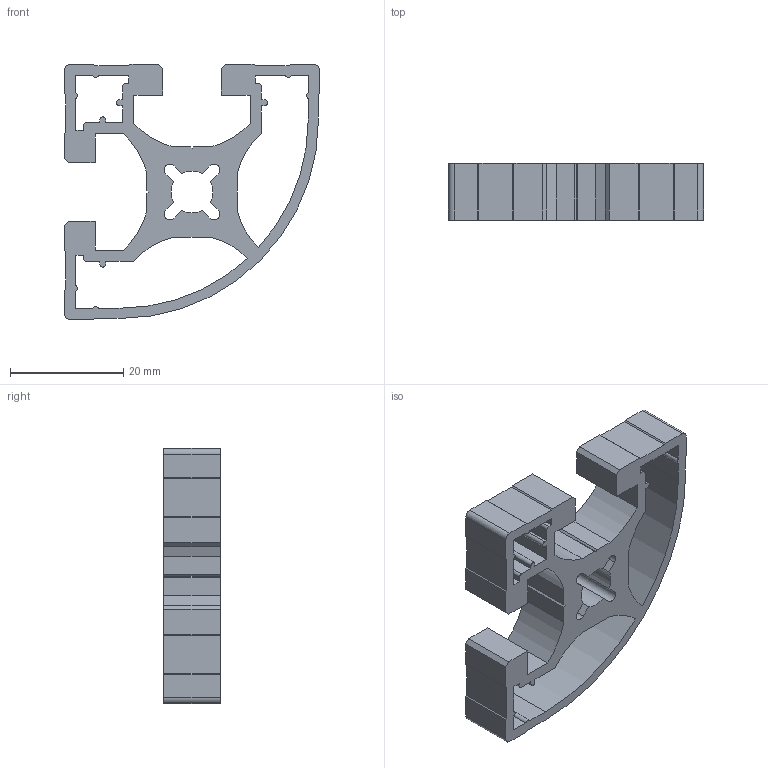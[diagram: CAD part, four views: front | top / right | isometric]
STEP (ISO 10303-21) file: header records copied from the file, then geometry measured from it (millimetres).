
FILE_DESCRIPTION((''),'2;1');
FILE_NAME('PR045045R','2002-12-27T',('Lipro doo'),('Lipro d.o.o.'),'PRO/ENGINEER BY PARAMETRIC TECHNOLOGY CORPORATION, 2001150','PRO/ENGINEER BY PARAMETRIC TECHNOLOGY CORPORATION, 2001150','');
FILE_SCHEMA(('CONFIG_CONTROL_DESIGN'));
Length unit declared in the file: millimetre
Products named in the file (1): PR045045R
Bounding box: 45 x 10 x 45 mm (x, y, z)
Volume: 6584.2 mm3; surface area: 6215.1 mm2
Topology: 1 solids, 1 shells, 134 faces, 396 edges, 264 vertices
Faces by surface type: plane 98, cylinder 36
Entity records: 4506 total; most frequent: CARTESIAN_POINT 794, ORIENTED_EDGE 792, DIRECTION 736, EDGE_CURVE 396, VECTOR 324, LINE 324, VERTEX_POINT 264, AXIS2_PLACEMENT_3D 206
